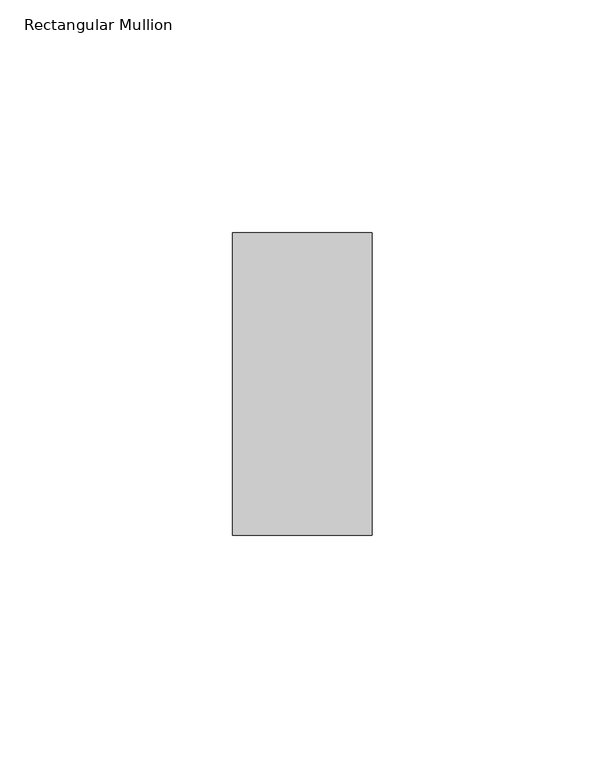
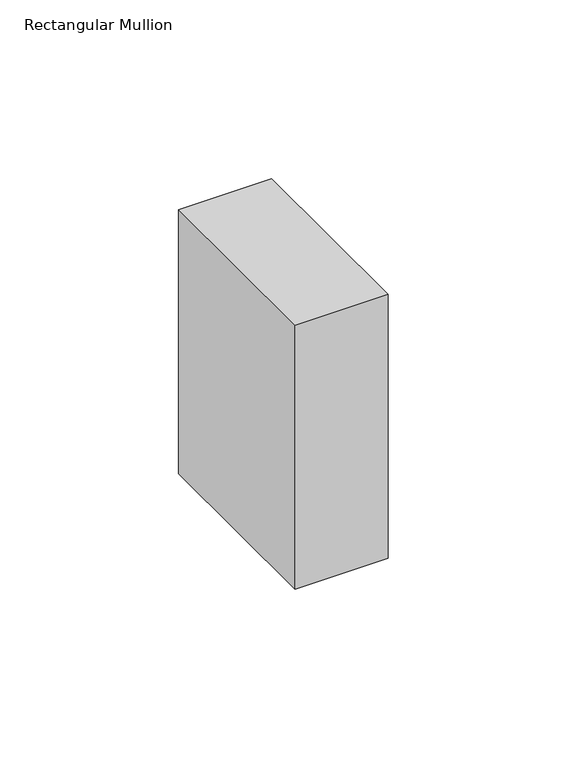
"""IFC4 building model written with IfcOpenShell, lengths in millimetres: member geometry, Rectangular Mullion : Batten_Timber_Modinex_Austratus_Grid_Fascia_30x65_AlaskanYellowCedar."""

from ifc_helpers import new_model, si_unit, frame, origin, place, context, project, spatial, polyline, outline, extrude, source, transform, mapped, element, save


def rectangular_mullion_33d50af2(model_context):
    return source(origin(), model_context, "Body", "SweptSolid", [
        extrude(outline(polyline([(-15.0, 65.0), (15.0, 65.0), (15.0, 0.0), (-15.0, 0.0), (-15.0, 65.0)])), frame((0.0, 0.0, -89.9999997), z_axis=(0.0, 0.0, 1.0), x_axis=(1.0, 0.0, 0.0)), (0.0, 0.0, 1.0), 89.9999997),
    ])


if __name__ == "__main__":
    model = new_model("IFC4")
    model_context = context("Model", 3, world=origin())
    ifc_project = project(units=[si_unit("LENGTHUNIT", "METRE", prefix="MILLI")], contexts=[model_context])
    site = spatial("IfcSite", under=ifc_project)
    building = spatial("IfcBuilding", under=site)
    placement = place(None, origin())
    rectangular_mullion_shape = rectangular_mullion_33d50af2(model_context)
    element("IfcMember", 1, ObjectType="Rectangular Mullion : Batten_Timber_Modinex_Austratus_Grid_Fascia_30x65_AlaskanYellowCedar", at=placement, inside=building, context=model_context, shape_type="MappedRepresentation", body=[
        mapped(rectangular_mullion_shape, transform((0.0, 0.0, 0.0), x_axis=(1.0, 0.0, 0.0), y_axis=(0.0, 1.0, 0.0), z_axis=(0.0, 0.0, 1.0))),
    ])
    save(model, "model.ifc")
